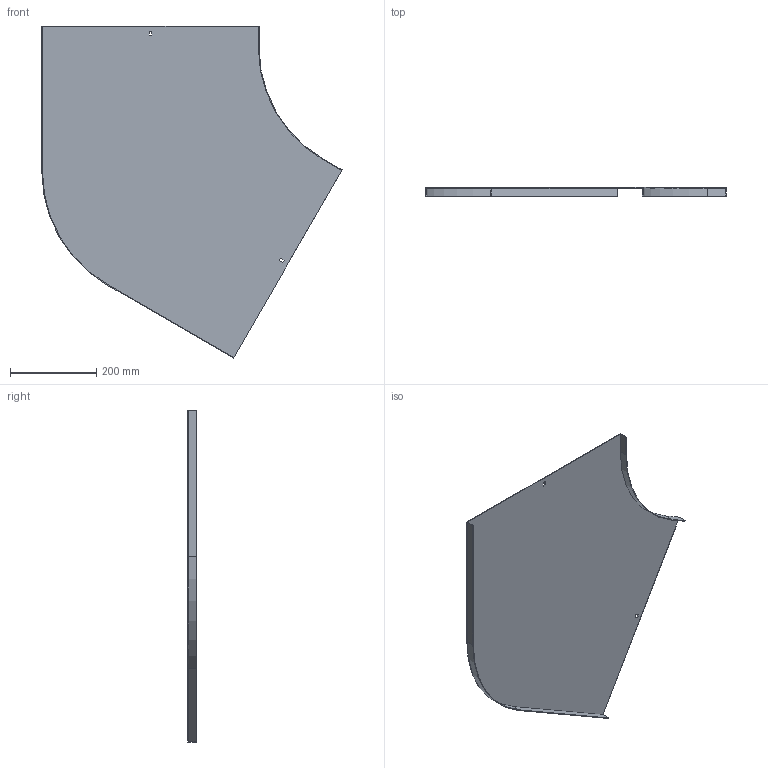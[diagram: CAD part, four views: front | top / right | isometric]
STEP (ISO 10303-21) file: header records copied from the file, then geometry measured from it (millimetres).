
FILE_DESCRIPTION (( 'STEP AP214' ), '1' );
FILE_NAME ('B2_13N3R500.step', '2025-02-21T10:52:49', ( '' ), ( '' ), 'SwSTEP 2.0', 'SolidWorks 2023', '' );
FILE_SCHEMA (( 'AUTOMOTIVE_DESIGN' ));
Length unit declared in the file: millimetre
Products named in the file (1): B2_13N3R500
Bounding box: 695.55 x 20 x 769.12 mm (x, y, z)
Volume: 593308.5 mm3; surface area: 794899.6 mm2
Topology: 1 solids, 1 shells, 26 faces, 72 edges, 48 vertices
Faces by surface type: plane 22, cylinder 4
Entity records: 855 total; most frequent: CARTESIAN_POINT 147, ORIENTED_EDGE 144, DIRECTION 134, EDGE_CURVE 72, LINE 64, VECTOR 64, VERTEX_POINT 48, AXIS2_PLACEMENT_3D 35
